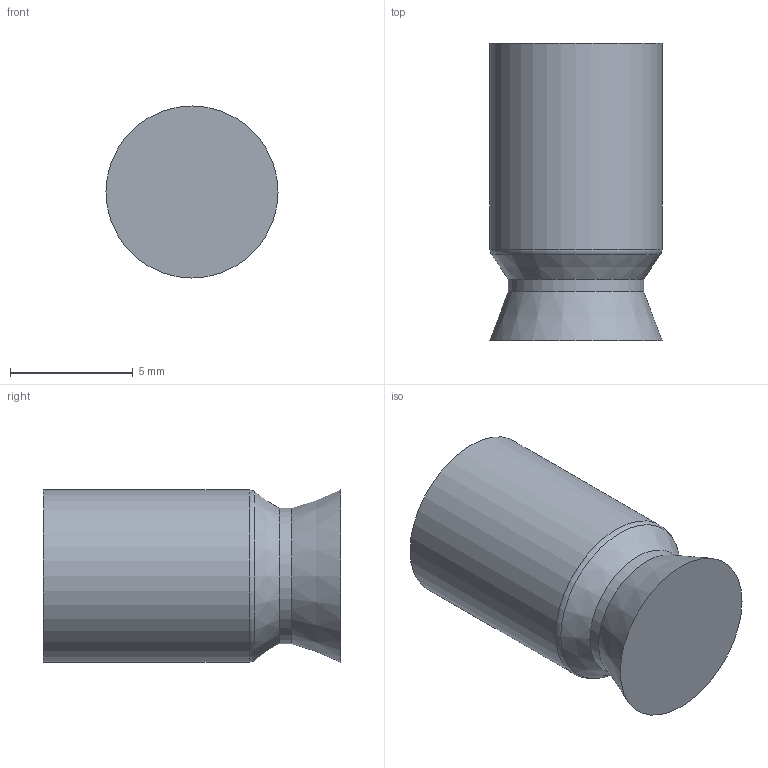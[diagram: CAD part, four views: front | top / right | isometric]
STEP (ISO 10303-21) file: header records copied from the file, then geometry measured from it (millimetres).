
FILE_DESCRIPTION((''),'2;1');
FILE_NAME('W:\Technik\Konstruktion\CAD-Daten\Kundenmodelle\102.007.484_Kd.stp','2010-09-22T10:55:44',('WMiller'),(''),'Autodesk Inventor 2009','Autodesk Inventor 2009','');
FILE_SCHEMA(('AUTOMOTIVE_DESIGN { 1 0 10303 214 1 1 1 1 }'));
Length unit declared in the file: millimetre
Products named in the file (1): 102.007
Bounding box: 7 x 12.1 x 7 mm (x, y, z)
Volume: 434.5 mm3; surface area: 340.4 mm2
Topology: 1 solids, 1 shells, 7 faces, 11 edges, 6 vertices
Faces by surface type: cylinder 2, cone 2, plane 2, torus 1
Full cylindrical faces by diameter (mm): 5.5 x1, 7 x1
Entity records: 160 total; most frequent: DIRECTION 28, CARTESIAN_POINT 20, AXIS2_PLACEMENT_3D 14, ORIENTED_EDGE 12, EDGE_LOOP 12, FACE_OUTER_BOUND 7, ADVANCED_FACE 7, VERTEX_POINT 6
